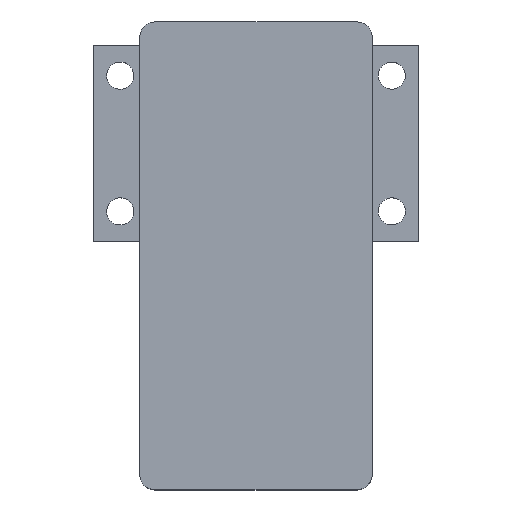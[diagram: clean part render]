
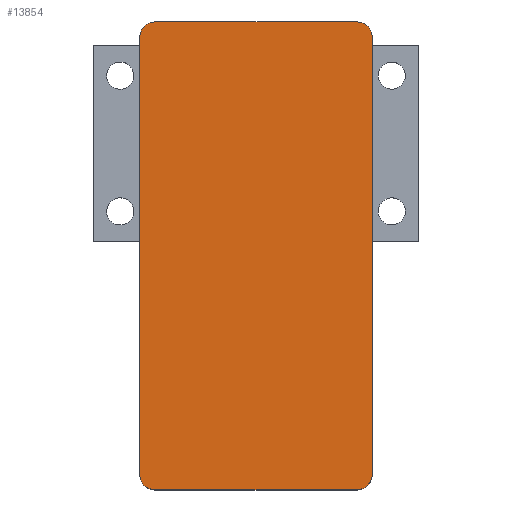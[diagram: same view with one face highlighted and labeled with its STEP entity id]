
A CAD part, top view. The second image highlights one B-rep face of the part: STEP entity #13854.
In plain terms, the highlighted free-form (B-spline) face has degree [1, 1] with [2, 2] control points.
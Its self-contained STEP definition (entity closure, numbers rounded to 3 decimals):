
#13787=CARTESIAN_POINT('',(-46.25,-85.25,0.));
#13788=CARTESIAN_POINT('',(-46.25,85.25,0.));
#13789=CARTESIAN_POINT('',(124.25,-85.25,0.));
#13790=CARTESIAN_POINT('',(124.25,85.25,0.));
#13791=B_SPLINE_SURFACE_WITH_KNOTS('',1,1,((#13787,#13788),(#13789,#13790)),.PLANE_SURF.,.F.,.F.,.U.,(2,2),(2,2),(0.,1.),(0.,1.),.UNSPECIFIED.);
#13792=CARTESIAN_POINT('',(-38.5,-72.5,0.));
#13793=VERTEX_POINT('',#13792);
#13794=CARTESIAN_POINT('',(-33.5,-77.5,0.));
#13795=VERTEX_POINT('',#13794);
#13796=CARTESIAN_POINT('',(-38.5,-72.5,0.));
#13797=CARTESIAN_POINT('',(-38.5,-77.5,0.));
#13798=CARTESIAN_POINT('',(-33.5,-77.5,0.));
#13799=(BOUNDED_CURVE()B_SPLINE_CURVE(2,(#13796,#13797,#13798),.CIRCULAR_ARC.,.F.,.U.)B_SPLINE_CURVE_WITH_KNOTS((3,3),(0.,1.),.UNSPECIFIED.)CURVE()GEOMETRIC_REPRESENTATION_ITEM()RATIONAL_B_SPLINE_CURVE((1.,0.707,1.))REPRESENTATION_ITEM(''));
#13800=EDGE_CURVE('',#13793,#13795,#13799,.T.);
#13801=ORIENTED_EDGE('',*,*,#13800,.T.);
#13802=CARTESIAN_POINT('',(33.5,-77.5,0.));
#13803=VERTEX_POINT('',#13802);
#13804=CARTESIAN_POINT('',(-33.5,-77.5,0.));
#13805=CARTESIAN_POINT('',(33.5,-77.5,0.));
#13806=B_SPLINE_CURVE_WITH_KNOTS('',1,(#13804,#13805),.POLYLINE_FORM.,.F.,.U.,(2,2),(0.065,0.935),.UNSPECIFIED.);
#13807=EDGE_CURVE('',#13795,#13803,#13806,.T.);
#13808=ORIENTED_EDGE('',*,*,#13807,.T.);
#13809=CARTESIAN_POINT('',(38.5,-72.5,0.));
#13810=VERTEX_POINT('',#13809);
#13811=CARTESIAN_POINT('',(33.5,-77.5,0.));
#13812=CARTESIAN_POINT('',(38.5,-77.5,0.));
#13813=CARTESIAN_POINT('',(38.5,-72.5,0.));
#13814=(BOUNDED_CURVE()B_SPLINE_CURVE(2,(#13811,#13812,#13813),.CIRCULAR_ARC.,.F.,.U.)B_SPLINE_CURVE_WITH_KNOTS((3,3),(0.,1.),.UNSPECIFIED.)CURVE()GEOMETRIC_REPRESENTATION_ITEM()RATIONAL_B_SPLINE_CURVE((1.,0.707,1.))REPRESENTATION_ITEM(''));
#13815=EDGE_CURVE('',#13803,#13810,#13814,.T.);
#13816=ORIENTED_EDGE('',*,*,#13815,.T.);
#13817=CARTESIAN_POINT('',(38.5,72.5,0.));
#13818=VERTEX_POINT('',#13817);
#13819=CARTESIAN_POINT('',(38.5,-72.5,0.));
#13820=CARTESIAN_POINT('',(38.5,72.5,0.));
#13821=B_SPLINE_CURVE_WITH_KNOTS('',1,(#13819,#13820),.POLYLINE_FORM.,.F.,.U.,(2,2),(0.032,0.968),.UNSPECIFIED.);
#13822=EDGE_CURVE('',#13810,#13818,#13821,.T.);
#13823=ORIENTED_EDGE('',*,*,#13822,.T.);
#13824=CARTESIAN_POINT('',(33.5,77.5,0.));
#13825=VERTEX_POINT('',#13824);
#13826=CARTESIAN_POINT('',(38.5,72.5,0.));
#13827=CARTESIAN_POINT('',(38.5,77.5,0.));
#13828=CARTESIAN_POINT('',(33.5,77.5,0.));
#13829=(BOUNDED_CURVE()B_SPLINE_CURVE(2,(#13826,#13827,#13828),.CIRCULAR_ARC.,.F.,.U.)B_SPLINE_CURVE_WITH_KNOTS((3,3),(0.,1.),.UNSPECIFIED.)CURVE()GEOMETRIC_REPRESENTATION_ITEM()RATIONAL_B_SPLINE_CURVE((1.,0.707,1.))REPRESENTATION_ITEM(''));
#13830=EDGE_CURVE('',#13818,#13825,#13829,.T.);
#13831=ORIENTED_EDGE('',*,*,#13830,.T.);
#13832=CARTESIAN_POINT('',(-33.5,77.5,0.));
#13833=VERTEX_POINT('',#13832);
#13834=CARTESIAN_POINT('',(33.5,77.5,0.));
#13835=CARTESIAN_POINT('',(-33.5,77.5,0.));
#13836=B_SPLINE_CURVE_WITH_KNOTS('',1,(#13834,#13835),.POLYLINE_FORM.,.F.,.U.,(2,2),(0.065,0.935),.UNSPECIFIED.);
#13837=EDGE_CURVE('',#13825,#13833,#13836,.T.);
#13838=ORIENTED_EDGE('',*,*,#13837,.T.);
#13839=CARTESIAN_POINT('',(-38.5,72.5,0.));
#13840=VERTEX_POINT('',#13839);
#13841=CARTESIAN_POINT('',(-33.5,77.5,0.));
#13842=CARTESIAN_POINT('',(-38.5,77.5,0.));
#13843=CARTESIAN_POINT('',(-38.5,72.5,0.));
#13844=(BOUNDED_CURVE()B_SPLINE_CURVE(2,(#13841,#13842,#13843),.CIRCULAR_ARC.,.F.,.U.)B_SPLINE_CURVE_WITH_KNOTS((3,3),(0.,1.),.UNSPECIFIED.)CURVE()GEOMETRIC_REPRESENTATION_ITEM()RATIONAL_B_SPLINE_CURVE((1.,0.707,1.))REPRESENTATION_ITEM(''));
#13845=EDGE_CURVE('',#13833,#13840,#13844,.T.);
#13846=ORIENTED_EDGE('',*,*,#13845,.T.);
#13847=CARTESIAN_POINT('',(-38.5,72.5,0.));
#13848=CARTESIAN_POINT('',(-38.5,-72.5,0.));
#13849=B_SPLINE_CURVE_WITH_KNOTS('',1,(#13847,#13848),.POLYLINE_FORM.,.F.,.U.,(2,2),(0.032,0.968),.UNSPECIFIED.);
#13850=EDGE_CURVE('',#13840,#13793,#13849,.T.);
#13851=ORIENTED_EDGE('',*,*,#13850,.T.);
#13852=EDGE_LOOP('',(#13801,#13808,#13816,#13823,#13831,#13838,#13846,#13851));
#13853=FACE_OUTER_BOUND('',#13852,.F.);
#13854=ADVANCED_FACE('',(#13853),#13791,.F.);
